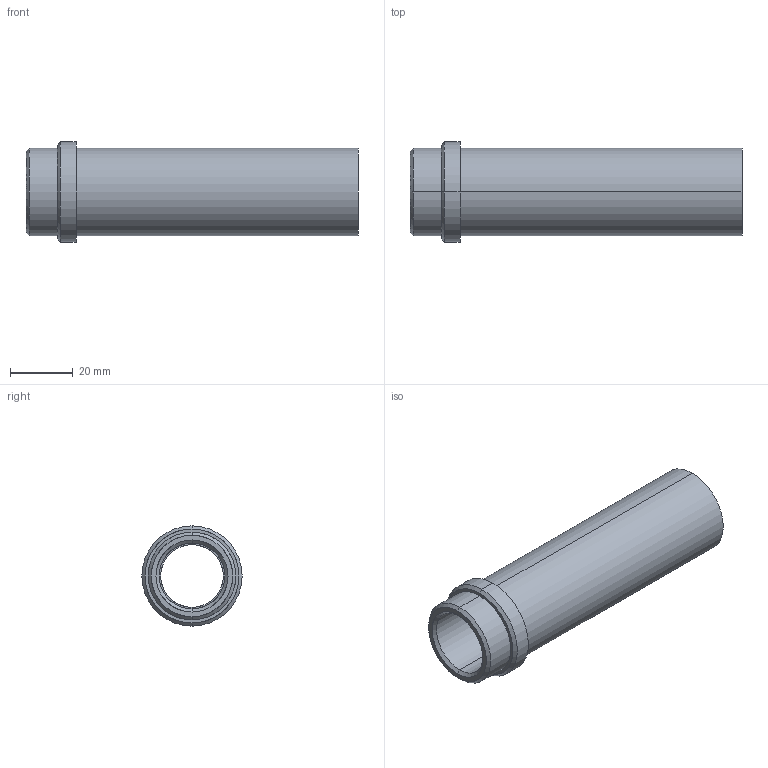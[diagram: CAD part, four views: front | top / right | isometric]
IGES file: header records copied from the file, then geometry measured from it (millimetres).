
Start section: START RECORD GO HERE.
Global section: file name: 358-20x106.igs; native system: DASSAULT SYSTEMES CATIA V5 R20 - www.3ds.com; preprocessor: CATIA Version 5 Release 20 ; author: Utente; organization: NB04-ASUS; date: 20210408.155710; units: millimetre
Bounding box: 106 x 32 x 32 mm (x, y, z)
Surface area: 17044.8 mm2 (no closed solid volume)
Topology: 0 solids, 0 shells, 23 faces, 148 edges, 148 vertices
Faces by surface type: revolution 18, plane 5
